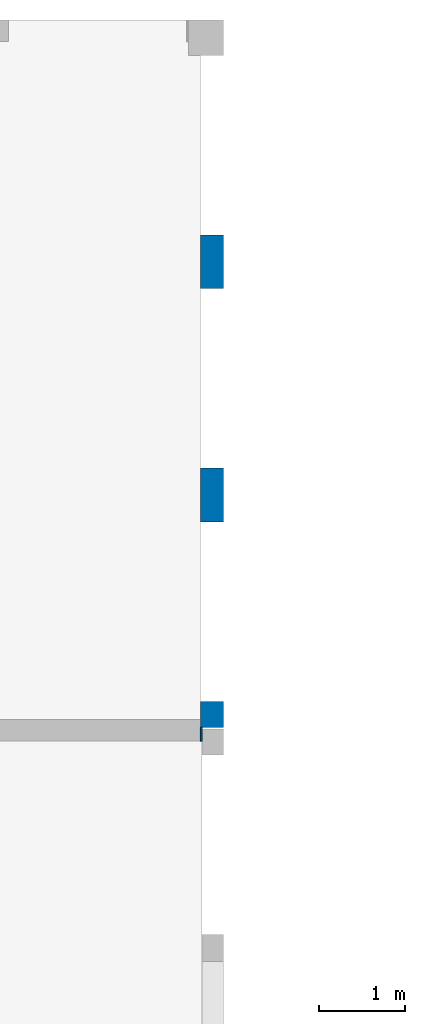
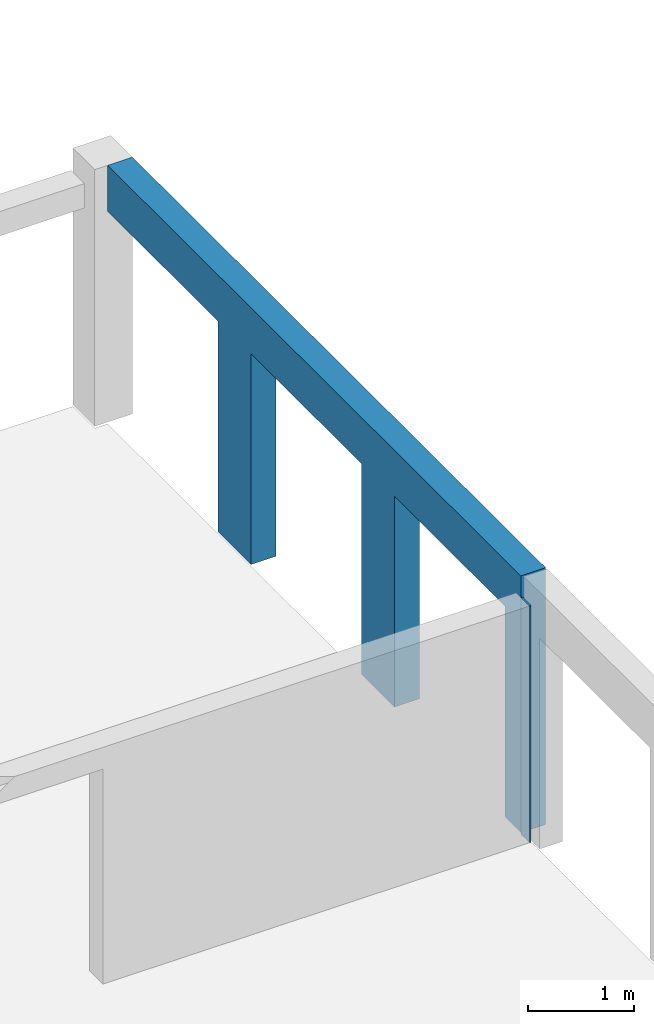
# One storey, part 4 of 11: 2 walls, 3 openings.
"""IFC2X3 building model written with IfcOpenShell, lengths in millimetres."""

from ifc_helpers import new_model, entity, si_unit, converted_unit, derived_unit, direction, frame, frame_2d, origin, place, context, subcontext, project, spatial, rectangle, extrude, material, layer, layer_set, layer_usage, type_object, element, save


model = new_model("IFC2X3")

# Units and contexts
model_context = context("Model", 3, precision=0.01, world=origin(), true_north=direction((6.12303176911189e-17, 1.0)))
body_context = subcontext(model_context, "Body", "Model", "MODEL_VIEW")
ifc_project = project(units=[si_unit("LENGTHUNIT", "METRE", prefix="MILLI"), si_unit("AREAUNIT", "SQUARE_METRE"), si_unit("VOLUMEUNIT", "CUBIC_METRE"), converted_unit("PLANEANGLEUNIT", "DEGREE", entity("IfcRatioMeasure", 0.0174532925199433), si_unit("PLANEANGLEUNIT", "RADIAN"), dimensions=[0, 0, 0, 0, 0, 0, 0]), si_unit("MASSUNIT", "GRAM", prefix="KILO"), derived_unit("MASSDENSITYUNIT", [(si_unit("MASSUNIT", "GRAM", prefix="KILO"), 1), (si_unit("LENGTHUNIT", "METRE"), -3)]), si_unit("TIMEUNIT", "SECOND"), si_unit("FREQUENCYUNIT", "HERTZ"), si_unit("THERMODYNAMICTEMPERATUREUNIT", "DEGREE_CELSIUS"), derived_unit("THERMALTRANSMITTANCEUNIT", [(si_unit("MASSUNIT", "GRAM", prefix="KILO"), 1), (si_unit("THERMODYNAMICTEMPERATUREUNIT", "KELVIN"), -1), (si_unit("TIMEUNIT", "SECOND"), -3)]), derived_unit("VOLUMETRICFLOWRATEUNIT", [(si_unit("LENGTHUNIT", "METRE"), 3), (si_unit("TIMEUNIT", "SECOND"), -1)]), si_unit("ELECTRICCURRENTUNIT", "AMPERE"), si_unit("ELECTRICVOLTAGEUNIT", "VOLT"), si_unit("POWERUNIT", "WATT"), si_unit("FORCEUNIT", "NEWTON", prefix="KILO"), si_unit("ILLUMINANCEUNIT", "LUX"), si_unit("LUMINOUSFLUXUNIT", "LUMEN"), si_unit("LUMINOUSINTENSITYUNIT", "CANDELA"), derived_unit("USERDEFINED", [(si_unit("MASSUNIT", "GRAM", prefix="KILO"), -1), (si_unit("LENGTHUNIT", "METRE"), -2), (si_unit("TIMEUNIT", "SECOND"), 3), (si_unit("LUMINOUSFLUXUNIT", "LUMEN"), 1)]), derived_unit("LINEARVELOCITYUNIT", [(si_unit("LENGTHUNIT", "METRE"), 1), (si_unit("TIMEUNIT", "SECOND"), -1)]), si_unit("PRESSUREUNIT", "PASCAL"), derived_unit("USERDEFINED", [(si_unit("LENGTHUNIT", "METRE"), -2), (si_unit("MASSUNIT", "GRAM", prefix="KILO"), 1), (si_unit("TIMEUNIT", "SECOND"), -2)])], contexts=[model_context])

# Site, building, storey
site_placement = place(None, origin())
site = spatial("IfcSite", under=ifc_project, at=site_placement, Name="Default", CompositionType="ELEMENT")
building_placement = place(site_placement, origin())
building = spatial("IfcBuilding", under=site, at=building_placement, Name="niet gebruiken", CompositionType="ELEMENT")
storey_placement = place(building_placement, frame((0.0, 0.0, 57150.0)))
storey = spatial("IfcBuildingStorey", under=building, at=storey_placement, Name="19 negentiende verdieping", CompositionType="ELEMENT", Elevation=57150.0)

# Wall, openings
ifc_material_1 = material(Name="NLRS_f2_beton prefab")
ifc_layer_1 = layer(ifc_material_1, 270.0)
ifc_layer_set_1 = layer_set([ifc_layer_1], Name="Basic Wall:NLRS_21.21_WA_beton prefab d=270_gen")
ifc_layer_usage_1 = layer_usage(ifc_layer_set_1, "AXIS2", "NEGATIVE", 135.0)
wall_type_1 = type_object("IfcWallType", Name="Basic Wall:NLRS_21.21_WA_beton prefab d=270_gen", PredefinedType="STANDARD", material=ifc_layer_set_1)
wall_1_placement = place(storey_placement, frame((56665.0, 52846.0, -70.0), z_axis=(0.0, 0.0, 1.0), x_axis=(0.0, -1.0, 0.0)))
wall_1 = element("IfcWallStandardCase", 1, at=wall_1_placement, inside=storey, type_object=wall_type_1, material=ifc_layer_usage_1, Name="Basic Wall:NLRS_21.21_WA_beton prefab d=270_gen", ObjectType="Basic Wall:NLRS_21.21_WA_beton prefab d=270_gen", context=body_context, shape_type="SweptSolid", body=[
    extrude(rectangle(XDim=7779.99999999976, YDim=270.000000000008, at=frame_2d((3889.99999999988, 0.0), x_axis=(-1.0, 0.0))), origin(), (0.0, 0.0, 1.0), 2949.99999999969),
])
opening_1_placement = place(wall_1_placement, origin())
element("IfcOpeningElement", 2, at=opening_1_placement, cuts=wall_1, Name="Basic Wall:NLRS_21.21_WA_beton prefab d=270_gen", ObjectType="Opening", context=body_context, shape_type="SweptSolid", body=[
    extrude(rectangle(XDim=2420.0, YDim=2080.0, at=frame_2d((8.64019966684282e-12, 0.0), x_axis=(0.0, 1.0))), frame((1040.0, -1389.0, 1210.0), z_axis=(0.0, 1.0, 0.0), x_axis=(-1.0, 0.0, 0.0)), (0.0, 0.0, 1.0), 3048.0),
])
opening_2_placement = place(wall_1_placement, origin())
element("IfcOpeningElement", 3, at=opening_2_placement, cuts=wall_1, Name="Basic Wall:NLRS_21.21_WA_beton prefab d=270_gen", ObjectType="Opening", context=body_context, shape_type="SweptSolid", body=[
    extrude(rectangle(XDim=2420.0, YDim=2080.0, at=frame_2d((0.0, 0.0), x_axis=(0.0, 1.0))), frame((3740.0, -1389.0, 1210.0), z_axis=(0.0, 1.0, 0.0), x_axis=(-1.0, 0.0, 0.0)), (0.0, 0.0, 1.0), 3048.0),
])
opening_3_placement = place(wall_1_placement, origin())
element("IfcOpeningElement", 4, at=opening_3_placement, cuts=wall_1, Name="Basic Wall:NLRS_21.21_WA_beton prefab d=270_gen", ObjectType="Opening", context=body_context, shape_type="SweptSolid", body=[
    extrude(rectangle(XDim=2420.0, YDim=2080.0, at=frame_2d((0.0, 0.0), x_axis=(0.0, 1.0))), frame((6440.0, -1389.0, 1210.0), z_axis=(0.0, 1.0, 0.0), x_axis=(-1.0, 0.0, 0.0)), (0.0, 0.0, 1.0), 3048.0),
])

# Wall
ifc_material_2 = material(Name="NLRS_f2_beton ihwg")
ifc_layer_2 = layer(ifc_material_2, 160.0)
ifc_layer_set_2 = layer_set([ifc_layer_2], Name="Basic Wall:NLRS_22.21_WA_beton ihwg d=160_gen")
ifc_layer_usage_2 = layer_usage(ifc_layer_set_2, "AXIS2", "NEGATIVE", 80.0)
wall_type_2 = type_object("IfcWallType", Name="Basic Wall:NLRS_22.21_WA_beton ihwg d=160_gen", PredefinedType="STANDARD", material=ifc_layer_set_2)
wall_2_placement = place(storey_placement, frame((56530.0, 44986.0, -90.0)))
element("IfcWallStandardCase", 5, at=wall_2_placement, inside=storey, type_object=wall_type_2, material=ifc_layer_usage_2, Name="Basic Wall:NLRS_22.21_WA_beton ihwg d=160_gen", ObjectType="Basic Wall:NLRS_22.21_WA_beton ihwg d=160_gen", context=body_context, shape_type="SweptSolid", body=[
    extrude(rectangle(XDim=19.9999999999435, YDim=159.999999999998, at=frame_2d((9.99999999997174, 0.0), x_axis=(-1.0, 0.0))), origin(), (0.0, 0.0, 1.0), 2719.99999999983),
])

save(model, "model.ifc")
